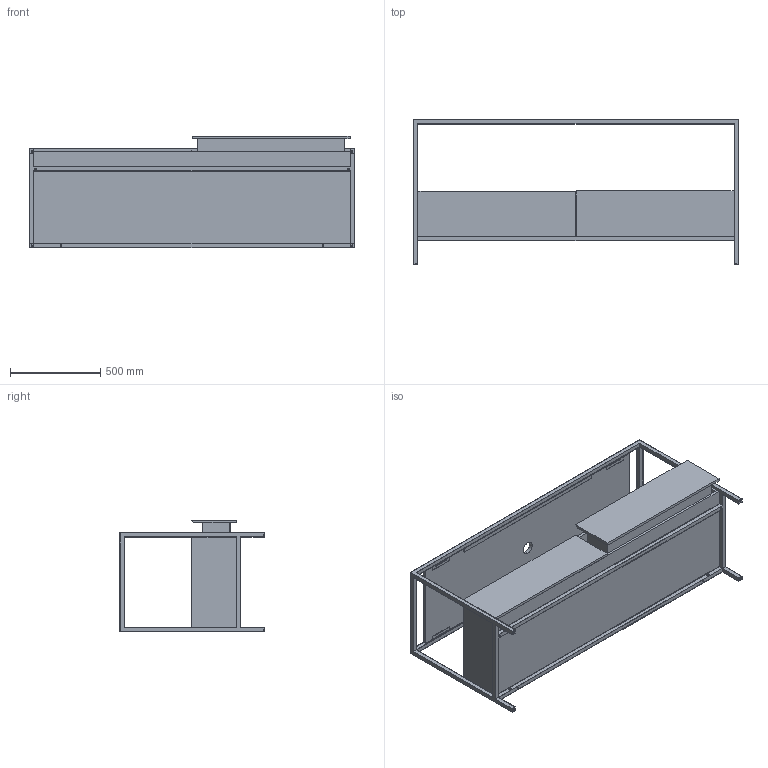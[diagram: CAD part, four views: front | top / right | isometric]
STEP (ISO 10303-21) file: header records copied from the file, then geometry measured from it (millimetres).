
FILE_DESCRIPTION (( 'STEP AP203' ), '1' );
FILE_NAME ('STA 180 04.STEP', '2019-02-04T14:32:45', ( '' ), ( '' ), 'SwSTEP 2.0', 'SolidWorks 2019', '' );
FILE_SCHEMA (( 'CONFIG_CONTROL_DESIGN' ));
Length unit declared in the file: millimetre
Products named in the file (6): CASSETTO 87,5; PIANO MISURA 160 1f; Ass CASSETTONE 180; STA 180 04; SCOCCA STAND 180; struttura STAND180
Assembly tree (6 placements, depth 3):
  STA 180 04
    struttura STAND180
    Ass CASSETTONE 180
      SCOCCA STAND 180
      CASSETTO 87,5  x2
    PIANO MISURA 160 1f
Bounding box: 1800 x 800 x 619.96 mm (x, y, z)
Volume: 71527441.1 mm3; surface area: 13083164.2 mm2
Topology: 5 solids, 5 shells, 226 faces, 602 edges, 380 vertices
Faces by surface type: plane 164, cylinder 54, torus 8
Entity records: 7272 total; most frequent: CARTESIAN_POINT 1143, ORIENTED_EDGE 1132, DIRECTION 1124, EDGE_CURVE 566, LINE 450, VECTOR 450, VERTEX_POINT 356, AXIS2_PLACEMENT_3D 337
